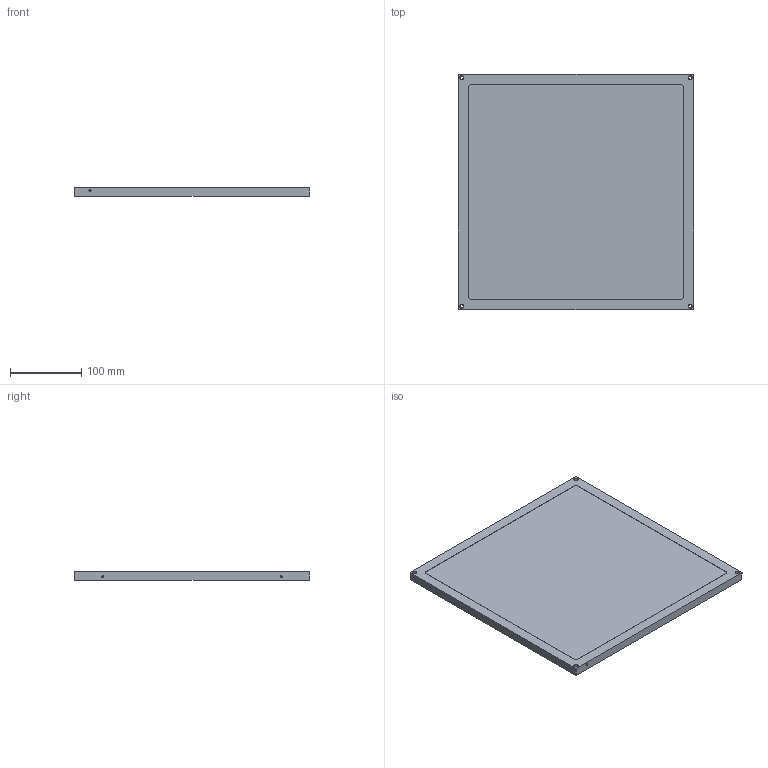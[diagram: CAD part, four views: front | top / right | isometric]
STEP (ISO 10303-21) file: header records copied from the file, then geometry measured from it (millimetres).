
FILE_DESCRIPTION((''),'2;1');
FILE_NAME('D:\上海创波-20181114\2-三维图纸\1-常用光源\WLTE系列\WLTE2-300L300-.stp','2020-02-03T17:15:45',('Administrator'),(''),'Autodesk Inventor 2010','Autodesk Inventor 2010','');
FILE_SCHEMA(('AUTOMOTIVE_DESIGN { 1 0 10303 214 1 1 1 1 }'));
Length unit declared in the file: millimetre
Products named in the file (1): 零件7
Bounding box: 330 x 330 x 12 mm (x, y, z)
Volume: 422591.2 mm3; surface area: 442922.7 mm2
Topology: 1 solids, 1 shells, 50 faces, 122 edges, 81 vertices
Faces by surface type: plane 21, bspline 17, cylinder 10, cone 2
Full cylindrical faces by diameter (mm): 3 x2
Entity records: 1611 total; most frequent: CARTESIAN_POINT 456, DIRECTION 208, ORIENTED_EDGE 196, EDGE_CURVE 98, EDGE_LOOP 82, AXIS2_PLACEMENT_3D 76, VERTEX_POINT 74, VECTOR 56
